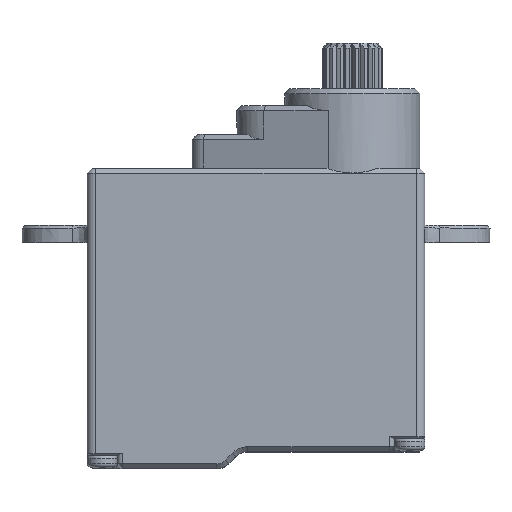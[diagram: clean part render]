
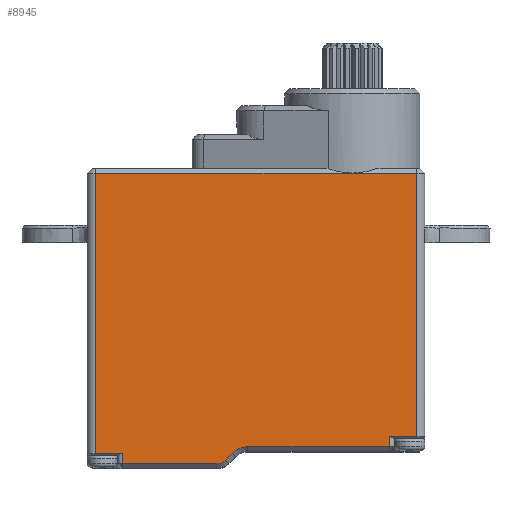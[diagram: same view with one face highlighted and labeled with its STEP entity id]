
A CAD part, top view. The second image highlights one B-rep face of the part: STEP entity #8945.
In plain terms, the highlighted planar face has unit normal (0, 0, 1).
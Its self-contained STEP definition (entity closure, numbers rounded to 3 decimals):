
#325=DIRECTION('',(-1.,0.,0.));
#326=VECTOR('',#325,8.386);
#327=CARTESIAN_POINT('',(7.9,-12.1,4.));
#328=LINE('',#327,#326);
#329=CARTESIAN_POINT('',(-0.486,-13.4,4.));
#330=DIRECTION('',(0.,0.,1.));
#331=DIRECTION('',(0.,1.,0.));
#332=AXIS2_PLACEMENT_3D('',#329,#330,#331);
#334=DIRECTION('',(-0.707,-0.707,0.));
#335=VECTOR('',#334,0.586);
#336=CARTESIAN_POINT('',(-1.405,-12.481,4.));
#337=LINE('',#336,#335);
#338=CARTESIAN_POINT('',(-2.314,-12.4,4.));
#339=DIRECTION('',(0.,0.,-1.));
#340=DIRECTION('',(0.707,-0.707,0.));
#341=AXIS2_PLACEMENT_3D('',#338,#339,#340);
#343=DIRECTION('',(-1.,0.,0.));
#344=VECTOR('',#343,5.586);
#345=CARTESIAN_POINT('',(-2.314,-13.1,4.));
#346=LINE('',#345,#344);
#347=DIRECTION('',(0.,1.,0.));
#348=VECTOR('',#347,16.6);
#349=CARTESIAN_POINT('',(-9.5,-12.5,4.));
#350=LINE('',#349,#348);
#351=DIRECTION('',(1.,0.,0.));
#352=VECTOR('',#351,15.198);
#353=CARTESIAN_POINT('',(-9.5,4.1,4.));
#354=LINE('',#353,#352);
#355=DIRECTION('',(1.,0.,0.));
#356=VECTOR('',#355,3.802);
#357=CARTESIAN_POINT('',(5.698,4.1,4.));
#358=LINE('',#357,#356);
#363=DIRECTION('',(0.,1.,0.));
#364=VECTOR('',#363,15.6);
#365=CARTESIAN_POINT('',(9.5,-11.5,4.));
#366=LINE('',#365,#364);
#620=DIRECTION('',(1.,0.,0.));
#621=VECTOR('',#620,1.6);
#622=CARTESIAN_POINT('',(-9.5,-12.5,4.));
#623=LINE('',#622,#621);
#633=CARTESIAN_POINT('',(-7.9,-12.5,4.));
#635=DIRECTION('',(0.,-1.,0.));
#636=VECTOR('',#635,0.6);
#637=CARTESIAN_POINT('',(-7.9,-12.5,4.));
#638=LINE('',#637,#636);
#707=DIRECTION('',(0.,1.,0.));
#708=VECTOR('',#707,0.6);
#709=CARTESIAN_POINT('',(7.9,-12.1,4.));
#710=LINE('',#709,#708);
#721=DIRECTION('',(1.,0.,0.));
#722=VECTOR('',#721,1.6);
#723=CARTESIAN_POINT('',(7.9,-11.5,4.));
#724=LINE('',#723,#722);
#7408=CARTESIAN_POINT('',(-9.5,4.1,4.));
#7409=VERTEX_POINT('',#7408);
#7410=CARTESIAN_POINT('',(5.698,4.1,4.));
#7411=VERTEX_POINT('',#7410);
#7430=CARTESIAN_POINT('',(9.5,4.1,4.));
#7431=VERTEX_POINT('',#7430);
#7532=CARTESIAN_POINT('',(-9.5,-12.5,4.));
#7534=VERTEX_POINT('',#7532);
#7636=CARTESIAN_POINT('',(-7.9,-13.1,4.));
#7637=VERTEX_POINT('',#7636);
#7638=VERTEX_POINT('',#633);
#7639=CARTESIAN_POINT('',(7.9,-11.5,4.));
#7640=CARTESIAN_POINT('',(9.5,-11.5,4.));
#7641=VERTEX_POINT('',#7639);
#7642=VERTEX_POINT('',#7640);
#7643=CARTESIAN_POINT('',(7.9,-12.1,4.));
#7644=VERTEX_POINT('',#7643);
#7645=CARTESIAN_POINT('',(-0.486,-12.1,
4.));
#7646=VERTEX_POINT('',#7645);
#7647=CARTESIAN_POINT('',(-1.405,-12.481,4.));
#7648=VERTEX_POINT('',#7647);
#7649=CARTESIAN_POINT('',(-1.819,-12.895,
4.));
#7650=VERTEX_POINT('',#7649);
#7651=CARTESIAN_POINT('',(-2.314,-13.1,4.));
#7652=VERTEX_POINT('',#7651);
#8913=CARTESIAN_POINT('',(-10.,0.,4.));
#8914=DIRECTION('',(0.,0.,1.));
#8915=DIRECTION('',(1.,0.,0.));
#8916=AXIS2_PLACEMENT_3D('',#8913,#8914,#8915);
#8917=PLANE('',#8916);
#8919=ORIENTED_EDGE('',*,*,#8918,.F.);
#8921=ORIENTED_EDGE('',*,*,#8920,.F.);
#8923=ORIENTED_EDGE('',*,*,#8922,.F.);
#8925=ORIENTED_EDGE('',*,*,#8924,.T.);
#8927=ORIENTED_EDGE('',*,*,#8926,.T.);
#8929=ORIENTED_EDGE('',*,*,#8928,.T.);
#8931=ORIENTED_EDGE('',*,*,#8930,.T.);
#8933=ORIENTED_EDGE('',*,*,#8932,.T.);
#8935=ORIENTED_EDGE('',*,*,#8934,.F.);
#8937=ORIENTED_EDGE('',*,*,#8936,.F.);
#8938=ORIENTED_EDGE('',*,*,#8896,.T.);
#8940=ORIENTED_EDGE('',*,*,#8939,.T.);
#8942=ORIENTED_EDGE('',*,*,#8941,.T.);
#8943=EDGE_LOOP('',(#8919,#8921,#8923,#8925,#8927,#8929,#8931,#8933,#8935,#8937,
#8938,#8940,#8942));
#8944=FACE_OUTER_BOUND('',#8943,.F.);
#333=CIRCLE('',#332,1.3);
#342=CIRCLE('',#341,0.7);
#8896=EDGE_CURVE('',#7534,#7409,#350,.T.);
#8918=EDGE_CURVE('',#7642,#7431,#366,.T.);
#8920=EDGE_CURVE('',#7641,#7642,#724,.T.);
#8922=EDGE_CURVE('',#7644,#7641,#710,.T.);
#8924=EDGE_CURVE('',#7644,#7646,#328,.T.);
#8926=EDGE_CURVE('',#7646,#7648,#333,.T.);
#8928=EDGE_CURVE('',#7648,#7650,#337,.T.);
#8930=EDGE_CURVE('',#7650,#7652,#342,.T.);
#8932=EDGE_CURVE('',#7652,#7637,#346,.T.);
#8934=EDGE_CURVE('',#7638,#7637,#638,.T.);
#8936=EDGE_CURVE('',#7534,#7638,#623,.T.);
#8939=EDGE_CURVE('',#7409,#7411,#354,.T.);
#8941=EDGE_CURVE('',#7411,#7431,#358,.T.);
#8945=ADVANCED_FACE('',(#8944),#8917,.T.);
